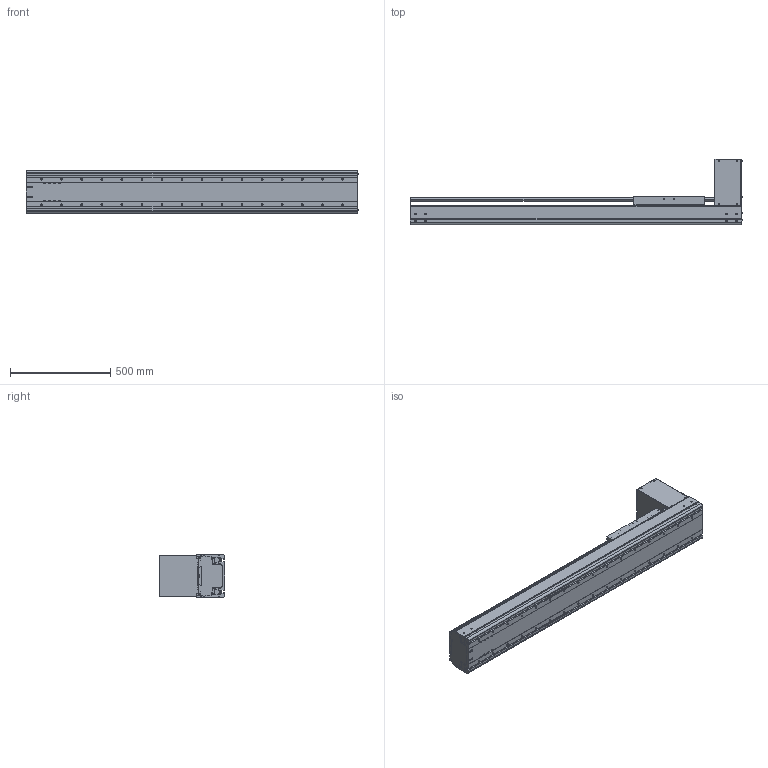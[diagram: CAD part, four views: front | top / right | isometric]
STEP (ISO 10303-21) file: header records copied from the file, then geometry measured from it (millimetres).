
FILE_DESCRIPTION((''),'2;1');
FILE_NAME('BE60J-BT-L19N-A5_IGS_PRT','2017-06-18T',(' '),(''),'PRO/ENGINEER BY PARAMETRIC TECHNOLOGY CORPORATION, 2015030','PRO/ENGINEER BY PARAMETRIC TECHNOLOGY CORPORATION, 2015030','');
FILE_SCHEMA(('CONFIG_CONTROL_DESIGN'));
Products named in the file (1): BE60J-BT-L19N-A5_IGS_PRT
Bounding box: 1654.4 x 327.5 x 214 mm (x, y, z)
Volume: 12124980.5 mm3; surface area: 3806857.6 mm2
Topology: 1 solids, 237 shells, 2098 faces, 5865 edges, 3898 vertices
Faces by surface type: cylinder 996, plane 818, cone 188, torus 48, sphere 48
Entity records: 69506 total; most frequent: CARTESIAN_POINT 15650, DIRECTION 11321, ORIENTED_EDGE 10580, EDGE_CURVE 5708, AXIS2_PLACEMENT_3D 4249, VERTEX_POINT 3882, VECTOR 2823, LINE 2823
